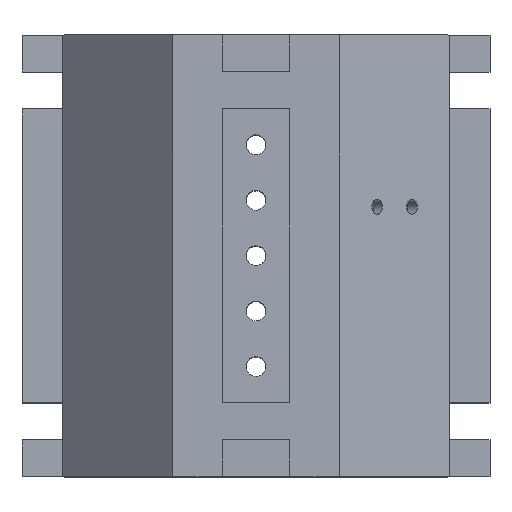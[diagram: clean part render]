
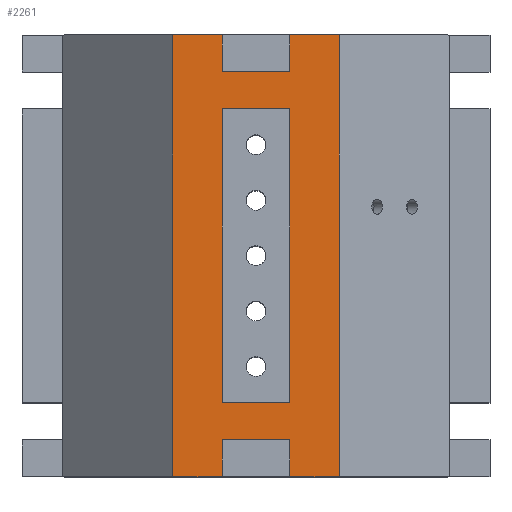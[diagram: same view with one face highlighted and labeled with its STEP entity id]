
A CAD part, top view. The second image highlights one B-rep face of the part: STEP entity #2261.
In plain terms, the highlighted planar face has unit normal (0, 0, 1).
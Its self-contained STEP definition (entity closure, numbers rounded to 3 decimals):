
#66=FACE_BOUND('',#400,.T.);
#144=PLANE('',#2435);
#246=FACE_OUTER_BOUND('',#399,.T.);
#399=EDGE_LOOP('',(#1993,#1994,#1995,#1996,#1997,#1998,#1999,#2000,#2001,
#2002,#2003,#2004));
#400=EDGE_LOOP('',(#2005,#2006,#2007,#2008));
#622=LINE('',#4488,#835);
#626=LINE('',#4497,#839);
#630=LINE('',#4506,#843);
#634=LINE('',#4515,#847);
#640=LINE('',#4526,#853);
#642=LINE('',#4529,#855);
#643=LINE('',#4532,#856);
#646=LINE('',#4538,#859);
#649=LINE('',#4543,#862);
#653=LINE('',#4550,#866);
#684=LINE('',#4608,#897);
#685=LINE('',#4611,#898);
#686=LINE('',#4613,#899);
#687=LINE('',#4614,#900);
#688=LINE('',#4615,#901);
#689=LINE('',#4616,#902);
#835=VECTOR('',#2812,10.);
#839=VECTOR('',#2818,10.);
#843=VECTOR('',#2824,10.);
#847=VECTOR('',#2830,10.);
#853=VECTOR('',#2838,10.);
#855=VECTOR('',#2842,10.);
#856=VECTOR('',#2845,10.);
#859=VECTOR('',#2850,10.);
#862=VECTOR('',#2855,10.);
#866=VECTOR('',#2861,10.);
#897=VECTOR('',#2918,10.);
#898=VECTOR('',#2921,10.);
#899=VECTOR('',#2922,10.);
#900=VECTOR('',#2923,10.);
#901=VECTOR('',#2924,10.);
#902=VECTOR('',#2925,10.);
#1138=VERTEX_POINT('',#4486);
#1139=VERTEX_POINT('',#4487);
#1142=VERTEX_POINT('',#4495);
#1143=VERTEX_POINT('',#4496);
#1146=VERTEX_POINT('',#4504);
#1147=VERTEX_POINT('',#4505);
#1150=VERTEX_POINT('',#4513);
#1151=VERTEX_POINT('',#4514);
#1155=VERTEX_POINT('',#4524);
#1156=VERTEX_POINT('',#4531);
#1158=VERTEX_POINT('',#4537);
#1161=VERTEX_POINT('',#4548);
#1174=VERTEX_POINT('',#4604);
#1175=VERTEX_POINT('',#4606);
#1176=VERTEX_POINT('',#4610);
#1177=VERTEX_POINT('',#4612);
#1413=EDGE_CURVE('',#1138,#1139,#622,.T.);
#1417=EDGE_CURVE('',#1142,#1143,#626,.T.);
#1421=EDGE_CURVE('',#1146,#1147,#630,.T.);
#1425=EDGE_CURVE('',#1150,#1151,#634,.T.);
#1431=EDGE_CURVE('',#1155,#1150,#640,.T.);
#1433=EDGE_CURVE('',#1147,#1138,#642,.T.);
#1434=EDGE_CURVE('',#1143,#1156,#643,.T.);
#1437=EDGE_CURVE('',#1158,#1151,#646,.T.);
#1440=EDGE_CURVE('',#1146,#1139,#649,.T.);
#1444=EDGE_CURVE('',#1142,#1161,#653,.T.);
#1477=EDGE_CURVE('',#1174,#1175,#684,.T.);
#1478=EDGE_CURVE('',#1176,#1161,#685,.T.);
#1479=EDGE_CURVE('',#1177,#1176,#686,.T.);
#1480=EDGE_CURVE('',#1177,#1158,#687,.T.);
#1481=EDGE_CURVE('',#1155,#1174,#688,.T.);
#1482=EDGE_CURVE('',#1156,#1175,#689,.T.);
#1993=ORIENTED_EDGE('',*,*,#1444,.T.);
#1994=ORIENTED_EDGE('',*,*,#1478,.F.);
#1995=ORIENTED_EDGE('',*,*,#1479,.F.);
#1996=ORIENTED_EDGE('',*,*,#1480,.T.);
#1997=ORIENTED_EDGE('',*,*,#1437,.T.);
#1998=ORIENTED_EDGE('',*,*,#1425,.F.);
#1999=ORIENTED_EDGE('',*,*,#1431,.F.);
#2000=ORIENTED_EDGE('',*,*,#1481,.T.);
#2001=ORIENTED_EDGE('',*,*,#1477,.T.);
#2002=ORIENTED_EDGE('',*,*,#1482,.F.);
#2003=ORIENTED_EDGE('',*,*,#1434,.F.);
#2004=ORIENTED_EDGE('',*,*,#1417,.F.);
#2005=ORIENTED_EDGE('',*,*,#1413,.F.);
#2006=ORIENTED_EDGE('',*,*,#1433,.F.);
#2007=ORIENTED_EDGE('',*,*,#1421,.F.);
#2008=ORIENTED_EDGE('',*,*,#1440,.T.);
#2261=ADVANCED_FACE('',(#246,#66),#144,.T.);
#2435=AXIS2_PLACEMENT_3D('',#4609,#2919,#2920);
#2812=DIRECTION('',(-1.,0.,0.));
#2818=DIRECTION('',(1.,0.,0.));
#2824=DIRECTION('',(1.,0.,0.));
#2830=DIRECTION('',(-1.,0.,0.));
#2838=DIRECTION('',(0.,1.,0.));
#2842=DIRECTION('',(0.,1.,0.));
#2845=DIRECTION('',(0.,1.,0.));
#2850=DIRECTION('',(0.,1.,0.));
#2855=DIRECTION('',(0.,1.,0.));
#2861=DIRECTION('',(0.,1.,0.));
#2918=DIRECTION('',(0.,1.,0.));
#2919=DIRECTION('center_axis',(0.,0.,1.));
#2920=DIRECTION('ref_axis',(1.,0.,0.));
#2921=DIRECTION('',(1.,0.,0.));
#2922=DIRECTION('',(0.,1.,0.));
#2923=DIRECTION('',(1.,0.,0.));
#2924=DIRECTION('',(1.,0.,0.));
#2925=DIRECTION('',(1.,0.,0.));
#4486=CARTESIAN_POINT('',(5.5,59.73,31.5));
#4487=CARTESIAN_POINT('',(-5.5,59.73,31.5));
#4488=CARTESIAN_POINT('',(2.75,59.73,31.5));
#4495=CARTESIAN_POINT('',(-5.5,65.73,31.5));
#4496=CARTESIAN_POINT('',(5.5,65.73,31.5));
#4497=CARTESIAN_POINT('',(-2.75,65.73,31.5));
#4504=CARTESIAN_POINT('',(-5.5,12.,31.5));
#4505=CARTESIAN_POINT('',(5.5,12.,31.5));
#4506=CARTESIAN_POINT('',(-2.75,12.,31.5));
#4513=CARTESIAN_POINT('',(5.5,6.,31.5));
#4514=CARTESIAN_POINT('',(-5.5,6.,31.5));
#4515=CARTESIAN_POINT('',(2.75,6.,31.5));
#4524=CARTESIAN_POINT('',(5.5,0.,31.5));
#4526=CARTESIAN_POINT('',(5.5,0.,31.5));
#4529=CARTESIAN_POINT('',(5.5,0.,31.5));
#4531=CARTESIAN_POINT('',(5.5,71.73,31.5));
#4532=CARTESIAN_POINT('',(5.5,0.,31.5));
#4537=CARTESIAN_POINT('',(-5.5,0.,31.5));
#4538=CARTESIAN_POINT('',(-5.5,0.,31.5));
#4543=CARTESIAN_POINT('',(-5.5,0.,31.5));
#4548=CARTESIAN_POINT('',(-5.5,71.73,31.5));
#4550=CARTESIAN_POINT('',(-5.5,0.,31.5));
#4604=CARTESIAN_POINT('',(13.5,0.,31.5));
#4606=CARTESIAN_POINT('',(13.5,71.73,31.5));
#4608=CARTESIAN_POINT('',(13.5,0.,31.5));
#4609=CARTESIAN_POINT('Origin',(5.5,0.,31.5));
#4610=CARTESIAN_POINT('',(-13.5,71.73,31.5));
#4611=CARTESIAN_POINT('',(-13.5,71.73,31.5));
#4612=CARTESIAN_POINT('',(-13.5,0.,31.5));
#4613=CARTESIAN_POINT('',(-13.5,0.,31.5));
#4614=CARTESIAN_POINT('',(-13.5,0.,31.5));
#4615=CARTESIAN_POINT('',(5.5,0.,31.5));
#4616=CARTESIAN_POINT('',(5.5,71.73,31.5));
